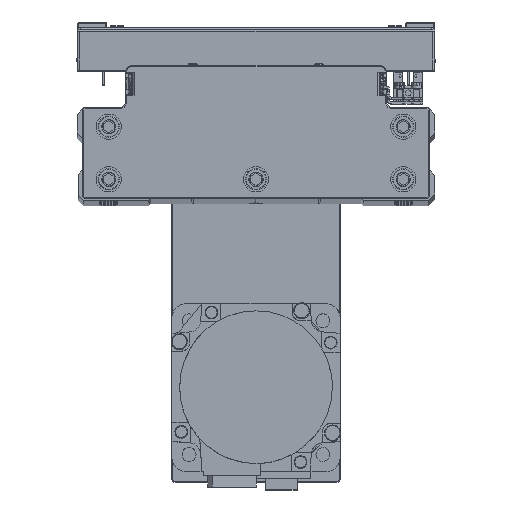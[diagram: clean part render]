
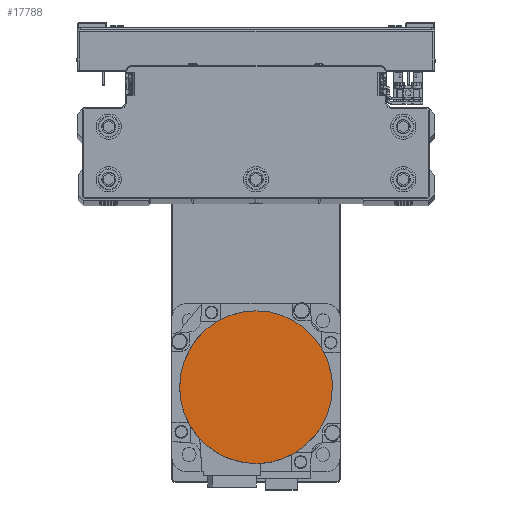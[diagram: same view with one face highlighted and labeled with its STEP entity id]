
A CAD part, top view. The second image highlights one B-rep face of the part: STEP entity #17788.
In plain terms, the highlighted planar face has unit normal (0, 0, 1) as drawn and (0, 0, -1) by its records, which use the part's own axes.
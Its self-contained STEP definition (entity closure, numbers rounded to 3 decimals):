
#270 = AXIS2_PLACEMENT_3D ( 'NONE', #22096, #36126, #4645 ) ;
#1559 = ORIENTED_EDGE ( 'NONE', *, *, #27187, .F. ) ;
#2705 = CARTESIAN_POINT ( 'NONE',  ( -18.192, -31.502, -122.2 ) ) ;
#2814 = CARTESIAN_POINT ( 'NONE',  ( -28.862, 22.143, -122.2 ) ) ;
#3869 = DIRECTION ( 'NONE',  ( 0., 0., 1. ) ) ;
#4645 = DIRECTION ( 'NONE',  ( -1., 0., 0. ) ) ;
#5627 = CARTESIAN_POINT ( 'NONE',  ( -22.143, 28.862, -122.2 ) ) ;
#6160 = CARTESIAN_POINT ( 'NONE',  ( -27.348, -23.988, -122.2 ) ) ;
#7734 = DIRECTION ( 'NONE',  ( 1., 0., 0. ) ) ;
#9094 = CARTESIAN_POINT ( 'NONE',  ( -11.696, 34.446, -122.2 ) ) ;
#9600 = CARTESIAN_POINT ( 'NONE',  ( -32.628, -16.086, -122.2 ) ) ;
#9928 = CARTESIAN_POINT ( 'NONE',  ( -36.3, 0., -122.2 ) ) ;
#10660 = VERTEX_POINT ( 'NONE', #26607 ) ;
#11185 = PLANE ( 'NONE',  #17216 ) ;
#11437 = B_SPLINE_CURVE_WITH_KNOTS ( 'NONE', 3,
 ( #44011, #12528, #26562, #40561, #9094, #23113, #37117, #5627, #19645, #33692, #2814, #16825, #30855, #44849, #13371, #27408, #41411, #9928 ),
 .UNSPECIFIED., .F., .F.,
 ( 4, 2, 2, 2, 2, 2, 2, 2, 4 ),
 ( 0., 0.125, 0.25, 0.375, 0.5, 0.625, 0.75, 0.875, 1. ),
 .UNSPECIFIED. ) ;
#12528 = CARTESIAN_POINT ( 'NONE',  ( -2.376, 36.3, -122.2 ) ) ;
#13043 = CARTESIAN_POINT ( 'NONE',  ( -36.066, -4.752, -122.2 ) ) ;
#13263 = CARTESIAN_POINT ( 'NONE',  ( -4.752, -36.066, -122.2 ) ) ;
#13371 = CARTESIAN_POINT ( 'NONE',  ( -35.139, 9.412, -122.2 ) ) ;
#16725 = CARTESIAN_POINT ( 'NONE',  ( -16.086, -32.628, -122.2 ) ) ;
#16825 = CARTESIAN_POINT ( 'NONE',  ( -31.502, 18.192, -122.2 ) ) ;
#17216 = AXIS2_PLACEMENT_3D ( 'NONE', #25204, #39215, #7734 ) ;
#17402 = CARTESIAN_POINT ( 'NONE',  ( 0., 36.3, -122.2 ) ) ;
#17668 = EDGE_CURVE ( 'NONE', #18878, #32456, #23061, .T. ) ;
#17788 = ADVANCED_FACE ( 'NONE', ( #42650 ), #11185, .F. ) ;
#17886 = DIRECTION ( 'NONE',  ( -1., 0., 0. ) ) ;
#18878 = VERTEX_POINT ( 'NONE', #24595 ) ;
#19645 = CARTESIAN_POINT ( 'NONE',  ( -23.988, 27.348, -122.2 ) ) ;
#19839 = ORIENTED_EDGE ( 'NONE', *, *, #40678, .F. ) ;
#20175 = CARTESIAN_POINT ( 'NONE',  ( -23.988, -27.348, -122.2 ) ) ;
#21224 = ORIENTED_EDGE ( 'NONE', *, *, #17668, .F. ) ;
#21468 = AXIS2_PLACEMENT_3D ( 'NONE', #35361, #3869, #17886 ) ;
#22096 = CARTESIAN_POINT ( 'NONE',  ( 0., 0., -122.2 ) ) ;
#23061 = B_SPLINE_CURVE_WITH_KNOTS ( 'NONE', 3,
 ( #30535, #44530, #13043, #27078, #41072, #9600, #23629, #37633, #6160, #20175, #34208, #2705, #16725, #30756, #44748, #13263, #27300, #41301 ),
 .UNSPECIFIED., .F., .F.,
 ( 4, 2, 2, 2, 2, 2, 2, 2, 4 ),
 ( 0., 0.125, 0.25, 0.375, 0.5, 0.625, 0.75, 0.875, 1. ),
 .UNSPECIFIED. ) ;
#23113 = CARTESIAN_POINT ( 'NONE',  ( -16.086, 32.628, -122.2 ) ) ;
#23629 = CARTESIAN_POINT ( 'NONE',  ( -31.502, -18.192, -122.2 ) ) ;
#24050 = VERTEX_POINT ( 'NONE', #17402 ) ;
#24595 = CARTESIAN_POINT ( 'NONE',  ( -36.3, 0., -122.2 ) ) ;
#25039 = EDGE_LOOP ( 'NONE', ( #1559, #21224, #19839, #43665 ) ) ;
#25204 = CARTESIAN_POINT ( 'NONE',  ( 0., 0., -122.2 ) ) ;
#26562 = CARTESIAN_POINT ( 'NONE',  ( -4.752, 36.066, -122.2 ) ) ;
#26607 = CARTESIAN_POINT ( 'NONE',  ( 36.3, 0., -122.2 ) ) ;
#27078 = CARTESIAN_POINT ( 'NONE',  ( -35.139, -9.412, -122.2 ) ) ;
#27187 = EDGE_CURVE ( 'NONE', #32456, #10660, #39903, .T. ) ;
#27300 = CARTESIAN_POINT ( 'NONE',  ( -2.376, -36.3, -122.2 ) ) ;
#27408 = CARTESIAN_POINT ( 'NONE',  ( -36.066, 4.752, -122.2 ) ) ;
#28384 = CARTESIAN_POINT ( 'NONE',  ( 0., -36.3, -122.2 ) ) ;
#30535 = CARTESIAN_POINT ( 'NONE',  ( -36.3, 0., -122.2 ) ) ;
#30756 = CARTESIAN_POINT ( 'NONE',  ( -11.696, -34.446, -122.2 ) ) ;
#30855 = CARTESIAN_POINT ( 'NONE',  ( -32.628, 16.086, -122.2 ) ) ;
#32456 = VERTEX_POINT ( 'NONE', #28384 ) ;
#33692 = CARTESIAN_POINT ( 'NONE',  ( -27.348, 23.988, -122.2 ) ) ;
#34208 = CARTESIAN_POINT ( 'NONE',  ( -22.143, -28.862, -122.2 ) ) ;
#35361 = CARTESIAN_POINT ( 'NONE',  ( 0., 0., -122.2 ) ) ;
#35424 = CIRCLE ( 'NONE', #21468, 36.3 ) ;
#35858 = EDGE_CURVE ( 'NONE', #10660, #24050, #35424, .T. ) ;
#36126 = DIRECTION ( 'NONE',  ( 0., 0., 1. ) ) ;
#37117 = CARTESIAN_POINT ( 'NONE',  ( -18.192, 31.502, -122.2 ) ) ;
#37633 = CARTESIAN_POINT ( 'NONE',  ( -28.862, -22.143, -122.2 ) ) ;
#39215 = DIRECTION ( 'NONE',  ( 0., 0., 1. ) ) ;
#39903 = CIRCLE ( 'NONE', #270, 36.3 ) ;
#40561 = CARTESIAN_POINT ( 'NONE',  ( -9.412, 35.139, -122.2 ) ) ;
#40678 = EDGE_CURVE ( 'NONE', #24050, #18878, #11437, .T. ) ;
#41072 = CARTESIAN_POINT ( 'NONE',  ( -34.446, -11.696, -122.2 ) ) ;
#41301 = CARTESIAN_POINT ( 'NONE',  ( 0., -36.3, -122.2 ) ) ;
#41411 = CARTESIAN_POINT ( 'NONE',  ( -36.3, 2.376, -122.2 ) ) ;
#42650 = FACE_OUTER_BOUND ( 'NONE', #25039, .T. ) ;
#43665 = ORIENTED_EDGE ( 'NONE', *, *, #35858, .F. ) ;
#44011 = CARTESIAN_POINT ( 'NONE',  ( 0., 36.3, -122.2 ) ) ;
#44530 = CARTESIAN_POINT ( 'NONE',  ( -36.3, -2.376, -122.2 ) ) ;
#44748 = CARTESIAN_POINT ( 'NONE',  ( -9.412, -35.139, -122.2 ) ) ;
#44849 = CARTESIAN_POINT ( 'NONE',  ( -34.446, 11.696, -122.2 ) ) ;
